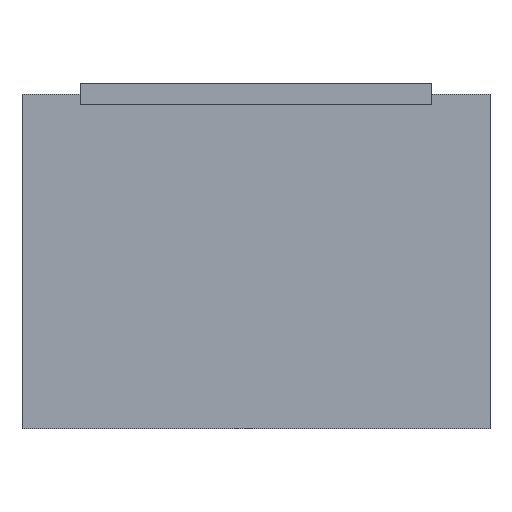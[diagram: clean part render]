
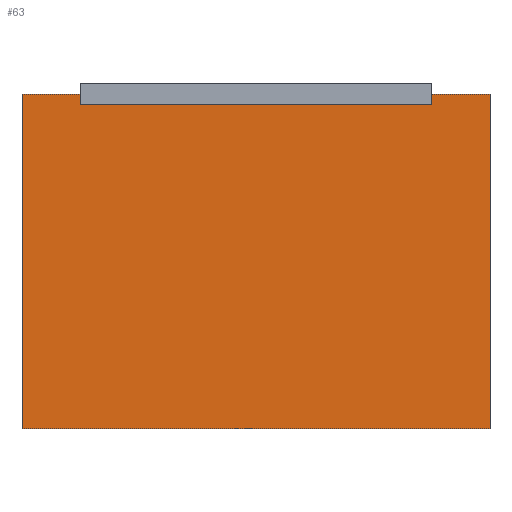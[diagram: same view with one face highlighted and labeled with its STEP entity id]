
A CAD part, top view. The second image highlights one B-rep face of the part: STEP entity #63.
In plain terms, the highlighted planar face has unit normal (0, 0, 1).
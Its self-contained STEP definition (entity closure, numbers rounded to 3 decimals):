
#63=ADVANCED_FACE('',(#122),#848,.T.);
#122=FACE_OUTER_BOUND('',#189,.T.);
#189=EDGE_LOOP('',(#353,#354,#355,#356));
#353=ORIENTED_EDGE('',*,*,#527,.T.);
#354=ORIENTED_EDGE('',*,*,#531,.T.);
#355=ORIENTED_EDGE('',*,*,#534,.T.);
#356=ORIENTED_EDGE('',*,*,#536,.T.);
#527=EDGE_CURVE('',#764,#763,#678,.T.);
#531=EDGE_CURVE('',#763,#766,#682,.T.);
#534=EDGE_CURVE('',#766,#768,#685,.T.);
#536=EDGE_CURVE('',#768,#764,#687,.T.);
#678=B_SPLINE_CURVE_WITH_KNOTS('',1,(#1382,#1383),.UNSPECIFIED.,.F.,.F.,
(2,2),(0.,400.),.UNSPECIFIED.);
#682=B_SPLINE_CURVE_WITH_KNOTS('',1,(#1390,#1391),.UNSPECIFIED.,.F.,.F.,
(2,2),(400.,686.),.UNSPECIFIED.);
#685=B_SPLINE_CURVE_WITH_KNOTS('',1,(#1396,#1397),.UNSPECIFIED.,.F.,.F.,
(2,2),(686.,1086.),.UNSPECIFIED.);
#687=B_SPLINE_CURVE_WITH_KNOTS('',1,(#1400,#1401),.UNSPECIFIED.,.F.,.F.,
(2,2),(1086.,1372.),.UNSPECIFIED.);
#763=VERTEX_POINT('',#1356);
#764=VERTEX_POINT('',#1357);
#766=VERTEX_POINT('',#1359);
#768=VERTEX_POINT('',#1361);
#848=PLANE('',#909);
#909=AXIS2_PLACEMENT_3D('',#1269,#953,$);
#953=DIRECTION('',(0.,0.,1.));
#1269=CARTESIAN_POINT('',(85.894,35.846,258.949));
#1356=CARTESIAN_POINT('',(485.894,35.846,258.949));
#1357=CARTESIAN_POINT('',(85.894,35.846,258.949));
#1359=CARTESIAN_POINT('',(485.894,321.846,258.949));
#1361=CARTESIAN_POINT('',(85.894,321.846,258.949));
#1382=CARTESIAN_POINT('',(85.894,35.846,258.949));
#1383=CARTESIAN_POINT('',(485.894,35.846,258.949));
#1390=CARTESIAN_POINT('',(485.894,35.846,258.949));
#1391=CARTESIAN_POINT('',(485.894,321.846,258.949));
#1396=CARTESIAN_POINT('',(485.894,321.846,258.949));
#1397=CARTESIAN_POINT('',(85.894,321.846,258.949));
#1400=CARTESIAN_POINT('',(85.894,321.846,258.949));
#1401=CARTESIAN_POINT('',(85.894,35.846,258.949));
